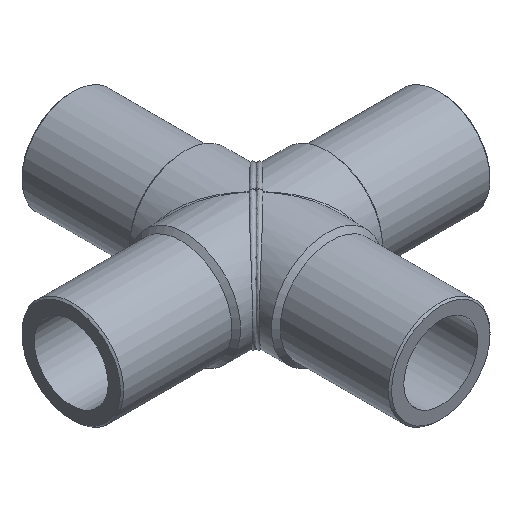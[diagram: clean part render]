
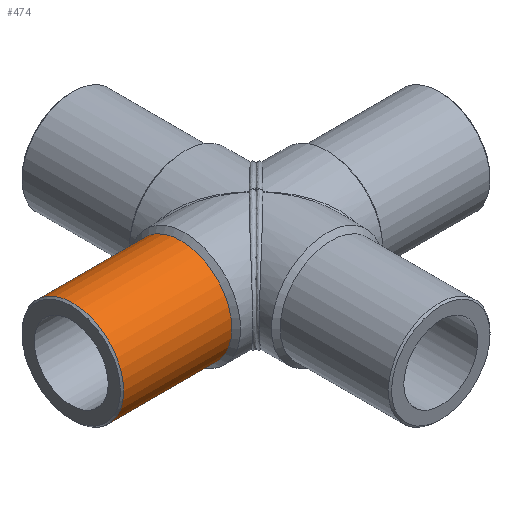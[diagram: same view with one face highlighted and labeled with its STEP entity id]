
A CAD part, isometric view. The second image highlights one B-rep face of the part: STEP entity #474.
In plain terms, the highlighted cylindrical face has radius 31.5 mm (diameter 63 mm), a full revolution.
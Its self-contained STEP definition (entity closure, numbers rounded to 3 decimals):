
#112=ORIENTED_EDGE('',*,*,#228,.T.);
#113=ORIENTED_EDGE('',*,*,#227,.T.);
#227=EDGE_CURVE('',#284,#284,#319,.T.);
#228=EDGE_CURVE('',#285,#285,#320,.T.);
#284=VERTEX_POINT('',#962);
#285=VERTEX_POINT('',#965);
#319=CIRCLE('',#539,31.5);
#320=CIRCLE('',#541,31.5);
#351=EDGE_LOOP('',(#112));
#352=EDGE_LOOP('',(#113));
#409=FACE_BOUND('',#351,.T.);
#410=FACE_BOUND('',#352,.T.);
#459=CYLINDRICAL_SURFACE('',#540,31.5);
#474=ADVANCED_FACE('',(#409,#410),#459,.T.);
#539=AXIS2_PLACEMENT_3D('',#961,#616,#617);
#540=AXIS2_PLACEMENT_3D('',#963,#618,#619);
#541=AXIS2_PLACEMENT_3D('',#964,#620,#621);
#616=DIRECTION('',(-1.,0.,0.));
#617=DIRECTION('',(0.,0.,1.));
#618=DIRECTION('',(-1.,0.,0.));
#619=DIRECTION('',(0.,0.,1.));
#620=DIRECTION('',(1.,0.,0.));
#621=DIRECTION('',(0.,0.,-1.));
#961=CARTESIAN_POINT('',(-46.5,0.,0.));
#962=CARTESIAN_POINT('',(-46.5,0.,31.5));
#963=CARTESIAN_POINT('',(-60.,0.,0.));
#964=CARTESIAN_POINT('',(-113.5,0.,0.));
#965=CARTESIAN_POINT('',(-113.5,0.,-31.5));
